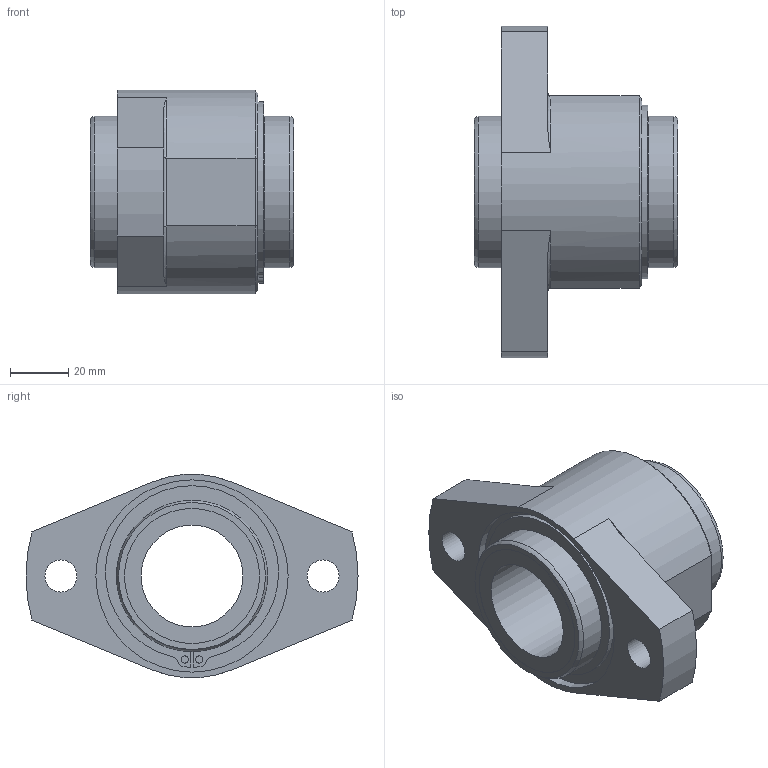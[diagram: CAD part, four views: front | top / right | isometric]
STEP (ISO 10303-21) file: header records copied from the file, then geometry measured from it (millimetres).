
FILE_DESCRIPTION((''),'2;1');
FILE_NAME('D:\製品 (図面)\カタログ用3D\シャフトブロック\LFH\LFH35.stp','2010-01-28T15:56:27',('Tsuchiya'),(''),'Autodesk Inventor 10','Autodesk Inventor 10','');
FILE_SCHEMA(('AUTOMOTIVE_DESIGN { 1 0 10303 214 1 1 1 1 }'));
Length unit declared in the file: millimetre
Products named in the file (1): LFH35
Bounding box: 70 x 114 x 69.78 mm (x, y, z)
Volume: 189920.4 mm3; surface area: 35493.7 mm2
Topology: 1 solids, 1 shells, 75 faces, 170 edges, 110 vertices
Faces by surface type: plane 26, cylinder 23, bspline 22, torus 2, cone 2
Full cylindrical faces by diameter (mm): 2.5 x2, 35 x1, 46.4 x2, 49 x2, 52 x2, 66 x1
Entity records: 2338 total; most frequent: CARTESIAN_POINT 726, DIRECTION 328, ORIENTED_EDGE 300, EDGE_CURVE 150, AXIS2_PLACEMENT_3D 136, EDGE_LOOP 112, VERTEX_POINT 108, CIRCLE 82
